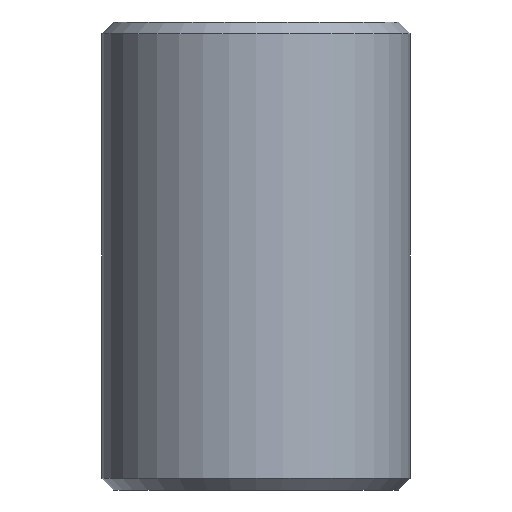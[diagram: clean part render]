
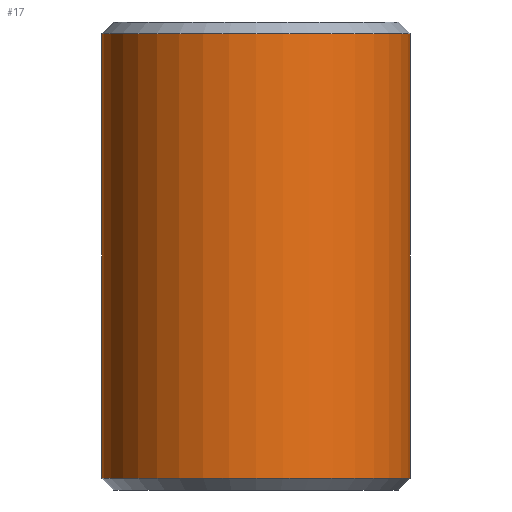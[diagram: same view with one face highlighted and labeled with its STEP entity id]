
A CAD part, front view. The second image highlights one B-rep face of the part: STEP entity #17.
In plain terms, the highlighted cylindrical face has radius 3.95 mm (diameter 7.9 mm), a full revolution.
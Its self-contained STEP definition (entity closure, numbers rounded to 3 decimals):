
#17 = ADVANCED_FACE('',(#18),#32,.T.);
#18 = FACE_BOUND('',#19,.T.);
#19 = EDGE_LOOP('',(#20,#50,#77,#78));
#20 = ORIENTED_EDGE('',*,*,#21,.T.);
#21 = EDGE_CURVE('',#22,#24,#26,.T.);
#22 = VERTEX_POINT('',#23);
#23 = CARTESIAN_POINT('',(3.95,0.,-5.7));
#24 = VERTEX_POINT('',#25);
#25 = CARTESIAN_POINT('',(3.95,0.,5.7));
#26 = SEAM_CURVE('',#27,(#31,#43),.PCURVE_S1.);
#27 = LINE('',#28,#29);
#28 = CARTESIAN_POINT('',(3.95,0.,-6.));
#29 = VECTOR('',#30,1.);
#30 = DIRECTION('',(0.,0.,1.));
#31 = PCURVE('',#32,#37);
#32 = CYLINDRICAL_SURFACE('',#33,3.95);
#33 = AXIS2_PLACEMENT_3D('',#34,#35,#36);
#34 = CARTESIAN_POINT('',(0.,0.,-6.));
#35 = DIRECTION('',(0.,0.,1.));
#36 = DIRECTION('',(1.,0.,-0.));
#37 = DEFINITIONAL_REPRESENTATION('',(#38),#42);
#38 = LINE('',#39,#40);
#39 = CARTESIAN_POINT('',(6.283,-0.));
#40 = VECTOR('',#41,1.);
#41 = DIRECTION('',(0.,1.));
#42 = ( GEOMETRIC_REPRESENTATION_CONTEXT(2) 
PARAMETRIC_REPRESENTATION_CONTEXT() REPRESENTATION_CONTEXT('2D SPACE',''
  ) );
#43 = PCURVE('',#32,#44);
#44 = DEFINITIONAL_REPRESENTATION('',(#45),#49);
#45 = LINE('',#46,#47);
#46 = CARTESIAN_POINT('',(0.,-0.));
#47 = VECTOR('',#48,1.);
#48 = DIRECTION('',(0.,1.));
#49 = ( GEOMETRIC_REPRESENTATION_CONTEXT(2) 
PARAMETRIC_REPRESENTATION_CONTEXT() REPRESENTATION_CONTEXT('2D SPACE',''
  ) );
#50 = ORIENTED_EDGE('',*,*,#51,.F.);
#51 = EDGE_CURVE('',#24,#24,#52,.T.);
#52 = SURFACE_CURVE('',#53,(#58,#65),.PCURVE_S1.);
#53 = CIRCLE('',#54,3.95);
#54 = AXIS2_PLACEMENT_3D('',#55,#56,#57);
#55 = CARTESIAN_POINT('',(0.,0.,5.7));
#56 = DIRECTION('',(0.,0.,1.));
#57 = DIRECTION('',(1.,0.,-0.));
#58 = PCURVE('',#32,#59);
#59 = DEFINITIONAL_REPRESENTATION('',(#60),#64);
#60 = LINE('',#61,#62);
#61 = CARTESIAN_POINT('',(0.,11.7));
#62 = VECTOR('',#63,1.);
#63 = DIRECTION('',(1.,0.));
#64 = ( GEOMETRIC_REPRESENTATION_CONTEXT(2) 
PARAMETRIC_REPRESENTATION_CONTEXT() REPRESENTATION_CONTEXT('2D SPACE',''
  ) );
#65 = PCURVE('',#66,#71);
#66 = CONICAL_SURFACE('',#67,3.95,0.785);
#67 = AXIS2_PLACEMENT_3D('',#68,#69,#70);
#68 = CARTESIAN_POINT('',(0.,0.,5.7));
#69 = DIRECTION('',(-0.,-0.,-1.));
#70 = DIRECTION('',(1.,0.,0.));
#71 = DEFINITIONAL_REPRESENTATION('',(#72),#76);
#72 = LINE('',#73,#74);
#73 = CARTESIAN_POINT('',(-0.,-0.));
#74 = VECTOR('',#75,1.);
#75 = DIRECTION('',(-1.,-0.));
#76 = ( GEOMETRIC_REPRESENTATION_CONTEXT(2) 
PARAMETRIC_REPRESENTATION_CONTEXT() REPRESENTATION_CONTEXT('2D SPACE',''
  ) );
#77 = ORIENTED_EDGE('',*,*,#21,.F.);
#78 = ORIENTED_EDGE('',*,*,#79,.T.);
#79 = EDGE_CURVE('',#22,#22,#80,.T.);
#80 = SURFACE_CURVE('',#81,(#86,#93),.PCURVE_S1.);
#81 = CIRCLE('',#82,3.95);
#82 = AXIS2_PLACEMENT_3D('',#83,#84,#85);
#83 = CARTESIAN_POINT('',(0.,0.,-5.7));
#84 = DIRECTION('',(0.,0.,1.));
#85 = DIRECTION('',(1.,0.,-0.));
#86 = PCURVE('',#32,#87);
#87 = DEFINITIONAL_REPRESENTATION('',(#88),#92);
#88 = LINE('',#89,#90);
#89 = CARTESIAN_POINT('',(0.,0.3));
#90 = VECTOR('',#91,1.);
#91 = DIRECTION('',(1.,0.));
#92 = ( GEOMETRIC_REPRESENTATION_CONTEXT(2) 
PARAMETRIC_REPRESENTATION_CONTEXT() REPRESENTATION_CONTEXT('2D SPACE',''
  ) );
#93 = PCURVE('',#94,#99);
#94 = CONICAL_SURFACE('',#95,3.95,0.785);
#95 = AXIS2_PLACEMENT_3D('',#96,#97,#98);
#96 = CARTESIAN_POINT('',(0.,0.,-5.7));
#97 = DIRECTION('',(0.,0.,1.));
#98 = DIRECTION('',(1.,0.,-0.));
#99 = DEFINITIONAL_REPRESENTATION('',(#100),#104);
#100 = LINE('',#101,#102);
#101 = CARTESIAN_POINT('',(0.,-0.));
#102 = VECTOR('',#103,1.);
#103 = DIRECTION('',(1.,-0.));
#104 = ( GEOMETRIC_REPRESENTATION_CONTEXT(2) 
PARAMETRIC_REPRESENTATION_CONTEXT() REPRESENTATION_CONTEXT('2D SPACE',''
  ) );
